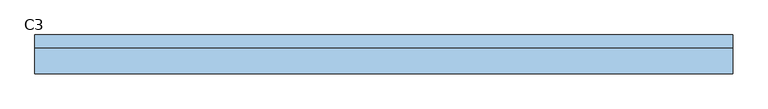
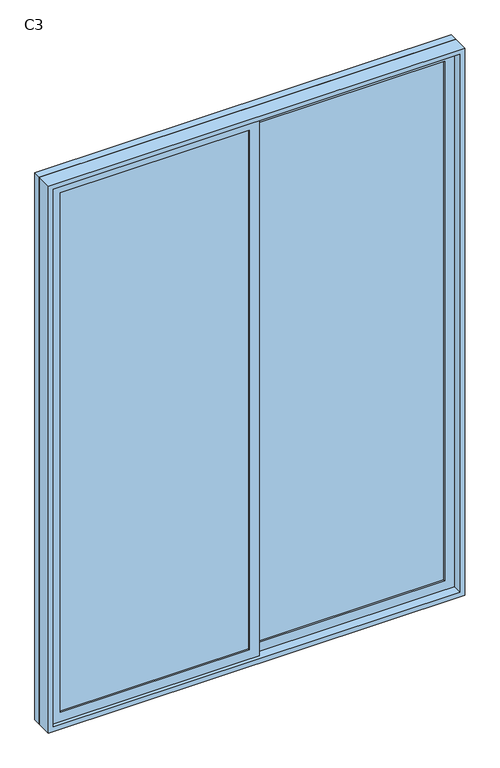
"""IFC4 building model written with IfcOpenShell, lengths in millimetres: window geometry, 推拉窗6 : C3."""

from ifc_helpers import new_model, si_unit, frame, origin, place, context, project, spatial, polyline, outline, extrude, source, transform, mapped, element, save


def c3_0408065b(model_context):
    return source(origin(), model_context, "Body", "SweptSolid", [
        extrude(outline(polyline([(-995.475, 36.8734375), (-995.475, 46.8734375), (-15.475, 46.8734375), (-15.475, 36.8734375), (-995.475, 36.8734375)])), frame((0.0, 0.0, 75.0), z_axis=(0.0, 0.0, 1.0), x_axis=(1.0, 0.0, 0.0)), (0.0, 0.0, 1.0), 2850.0),
        extrude(outline(polyline([(34.525, 66.8734375), (34.525, 76.8734375), (1014.525, 76.8734375), (1014.525, 66.8734375), (34.525, 66.8734375)])), frame((0.0, 0.0, 75.0), z_axis=(0.0, 0.0, 1.0), x_axis=(1.0, 0.0, 0.0)), (0.0, 0.0, 1.0), 2850.0),
        extrude(outline(polyline([(3000.0, -1070.475), (0.0, -1070.475), (0.0, 1089.525), (3000.0, 1089.525), (3000.0, -1070.475)]), holes=[polyline([(2945.0, 1039.525), (55.0, 1039.525), (55.0, -1020.475), (2945.0, -1020.475), (2945.0, 1039.525)])]), frame((0.0, 86.8734375, 0.0), z_axis=(0.0, 1.0, 0.0), x_axis=(0.0, 0.0, 1.0)), (0.0, 0.0, 1.0), 40.0),
        extrude(outline(polyline([(25.0, 34.525), (2975.0, 34.525), (2975.0, -1045.475), (25.0, -1045.475), (25.0, 34.525)]), holes=[polyline([(75.0, -15.475), (75.0, -995.475), (2925.0, -995.475), (2925.0, -15.475), (75.0, -15.475)])]), frame((0.0, 26.8734375, 0.0), z_axis=(0.0, 1.0, 0.0), x_axis=(0.0, 0.0, 1.0)), (0.0, 0.0, 1.0), 30.0),
        extrude(outline(polyline([(2975.0, -15.475), (25.0, -15.475), (25.0, 1064.525), (2975.0, 1064.525), (2975.0, -15.475)]), holes=[polyline([(2925.0, 34.525), (2925.0, 1014.525), (75.0, 1014.525), (75.0, 34.525), (2925.0, 34.525)])]), frame((0.0, 56.8734375, 0.0), z_axis=(0.0, 1.0, 0.0), x_axis=(0.0, 0.0, 1.0)), (0.0, 0.0, 1.0), 30.0),
        extrude(outline(polyline([(3000.0, -1070.475), (0.0, -1070.475), (0.0, 1089.525), (3000.0, 1089.525), (3000.0, -1070.475)]), holes=[polyline([(25.0, -1045.475), (2975.0, -1045.475), (2975.0, 1064.525), (25.0, 1064.525), (25.0, -1045.475)])]), frame((0.0, 6.8734375, 0.0), z_axis=(0.0, 1.0, 0.0), x_axis=(0.0, 0.0, 1.0)), (0.0, 0.0, 1.0), 80.0),
    ])


if __name__ == "__main__":
    model = new_model("IFC4")
    model_context = context("Model", 3, world=origin())
    ifc_project = project(units=[si_unit("LENGTHUNIT", "METRE", prefix="MILLI")], contexts=[model_context])
    site = spatial("IfcSite", under=ifc_project)
    building = spatial("IfcBuilding", under=site)
    placement = place(None, origin())
    c3_shape = c3_0408065b(model_context)
    element("IfcWindow", 1, ObjectType="推拉窗6 : C3", at=placement, inside=building, context=model_context, shape_type="MappedRepresentation", body=[
        mapped(c3_shape, transform((0.0, 0.0, 0.0), x_axis=(1.0, 0.0, 0.0), y_axis=(0.0, 1.0, 0.0), z_axis=(0.0, 0.0, 1.0))),
    ])
    save(model, "model.ifc")
